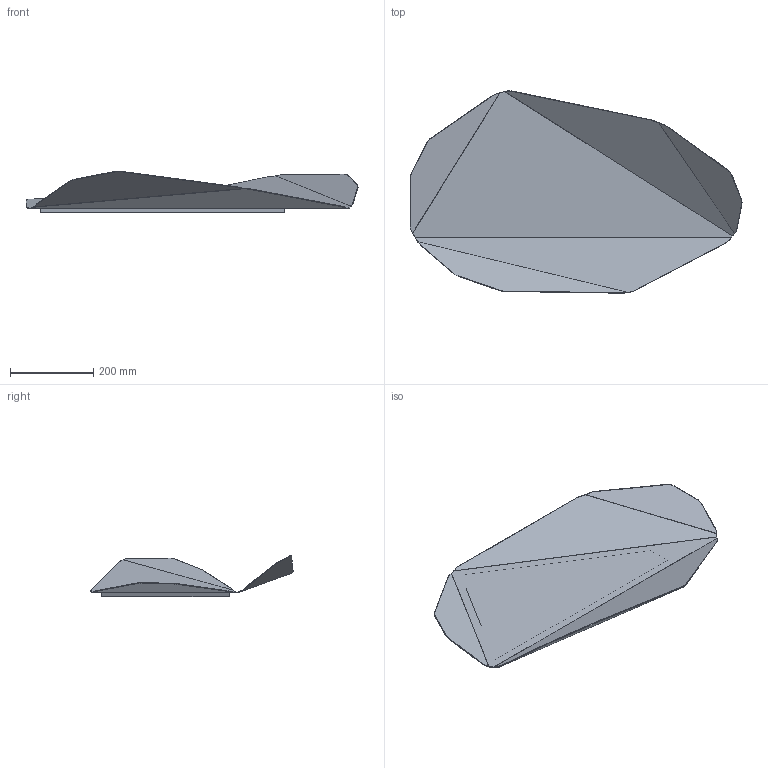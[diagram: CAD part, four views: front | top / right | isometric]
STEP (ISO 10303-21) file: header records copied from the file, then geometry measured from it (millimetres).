
FILE_DESCRIPTION(/* description */ (''),/* implementation_level */ '2;1');
FILE_NAME(/* name */ 'VW_Piega-Mirror_SMALL_3D_JS_20231110',/* time_stamp */ '2023-11-10T11:16:11+01:00',/* author */ (''),/* organization */ (''),/* preprocessor_version */ 'ST-DEVELOPER v16.5',/* originating_system */ 'Rhino 7.34',/* authorisation */ '');
FILE_SCHEMA (('CONFIG_CONTROL_DESIGN'));
Length unit declared in the file: millimetre
Products named in the file (1): Document
Bounding box: 798.49 x 486.86 x 100.42 mm (x, y, z)
Volume: 1015380.8 mm3; surface area: 803748.1 mm2
Topology: 1 solids, 76 shells, 81 faces, 195 edges, 191 vertices
Faces by surface type: plane 45, cylinder 26, bspline 10
Entity records: 2670 total; most frequent: CARTESIAN_POINT 1196, ORIENTED_EDGE 207, EDGE_CURVE 195, VERTEX_POINT 191, B_SPLINE_CURVE_WITH_KNOTS 168, ADVANCED_FACE 81, FACE_OUTER_BOUND 81, EDGE_LOOP 81
